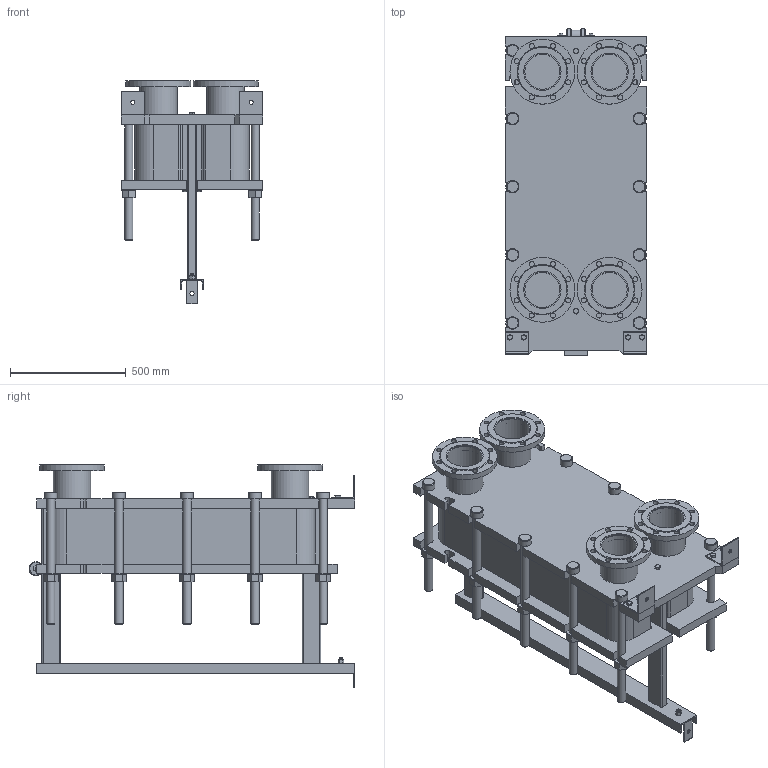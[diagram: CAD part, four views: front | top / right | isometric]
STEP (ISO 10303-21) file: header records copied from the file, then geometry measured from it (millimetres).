
FILE_DESCRIPTION(/* description */ (''),/* implementation_level */ '2;1');
FILE_NAME(/* name */ 'C:\Users\zhuro\Desktop\ENCO\TO\ЭН-041\ЭН-0,5-041-70-1.stp',/* time_stamp */ '2022-06-06T10:55:12+03:00',/* author */ ('zhuro'),/* organization */ (''),/* preprocessor_version */ 'ST-DEVELOPER v18.1',/* originating_system */ 'Autodesk Inventor 2022',/* authorisation */ '');
FILE_SCHEMA (('AUTOMOTIVE_DESIGN { 1 0 10303 214 3 1 1 }'));
Length unit declared in the file: millimetre
Products named in the file (1): ЭН-0,5-041-70-1
Bounding box: 610 x 1406.5 x 965 mm (x, y, z)
Volume: 214193578 mm3; surface area: 8363035.7 mm2
Topology: 52 solids, 52 shells, 711 faces, 1696 edges, 1094 vertices
Faces by surface type: plane 487, cylinder 177, cone 41, torus 6
Full cylindrical faces by diameter (mm): 8 x4, 10 x2, 16 x8, 18 x3, 22 x32, 36 x24, 50 x1, 54 x10, 60 x12, 151 x4, 161 x8, 280 x4
Entity records: 22667 total; most frequent: CARTESIAN_POINT 5230, DIRECTION 3644, ORIENTED_EDGE 3392, EDGE_CURVE 1696, AXIS2_PLACEMENT_3D 1272, LINE 1100, VECTOR 1100, VERTEX_POINT 1094
